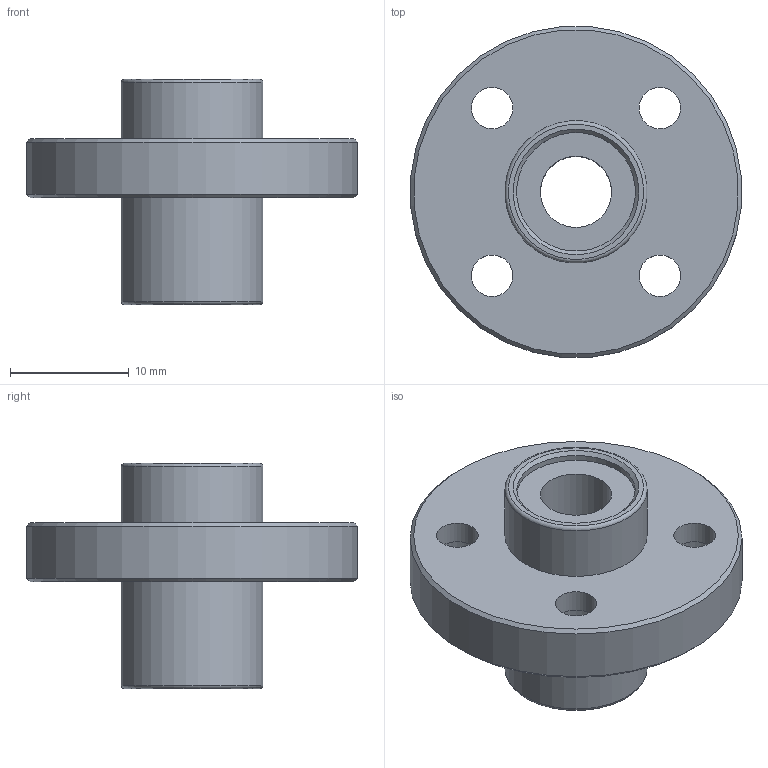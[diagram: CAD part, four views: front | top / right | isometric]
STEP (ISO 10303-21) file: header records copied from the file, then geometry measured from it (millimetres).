
FILE_DESCRIPTION(/* description */ (''),/* implementation_level */ '2;1');
FILE_NAME(/* name */ 'LMFP6UU',/* time_stamp */ '2019-07-03T11:34:13+02:00',/* author */ ('VĂ©gh MĂˇtĂ©'),/* organization */ ('Bearing Kft'),/* preprocessor_version */ 'ST-DEVELOPER v16.7',/* originating_system */ 'DEX',/* authorisation */ $);
FILE_SCHEMA (('AUTOMOTIVE_DESIGN {1 0 10303 214 3 1 1}'));
Length unit declared in the file: millimetre
Products named in the file (1): LMFP6UU
Bounding box: 27.89 x 27.89 x 19 mm (x, y, z)
Volume: 3608.2 mm3; surface area: 2716.9 mm2
Topology: 1 solids, 1 shells, 336 faces, 835 edges, 556 vertices
Faces by surface type: plane 248, bspline 66, cylinder 16, cone 4, torus 2
Full cylindrical faces by diameter (mm): 3.5 x4, 6 x5, 10 x2, 12 x2, 28 x1
Entity records: 12219 total; most frequent: CARTESIAN_POINT 4674, ORIENTED_EDGE 1618, DIRECTION 1257, EDGE_CURVE 809, LINE 639, VECTOR 639, VERTEX_POINT 552, EDGE_LOOP 423
